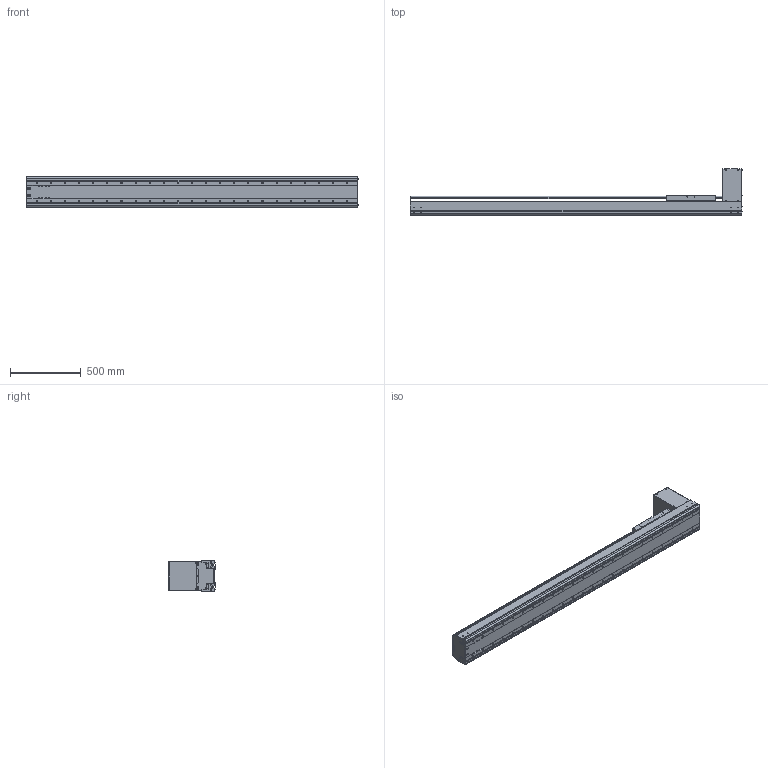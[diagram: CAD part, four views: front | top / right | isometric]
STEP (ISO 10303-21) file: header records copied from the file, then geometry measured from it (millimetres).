
FILE_DESCRIPTION((''),'2;1');
FILE_NAME('BE60J-BT-L19N-H5_IGS_PRT','2017-06-18T',(' '),(''),'PRO/ENGINEER BY PARAMETRIC TECHNOLOGY CORPORATION, 2015030','PRO/ENGINEER BY PARAMETRIC TECHNOLOGY CORPORATION, 2015030','');
FILE_SCHEMA(('CONFIG_CONTROL_DESIGN'));
Products named in the file (1): BE60J-BT-L19N-H5_IGS_PRT
Bounding box: 2354.4 x 327.5 x 214 mm (x, y, z)
Volume: 15554699.3 mm3; surface area: 5168882.7 mm2
Topology: 5 solids, 310 shells, 2353 faces, 6630 edges, 4446 vertices
Faces by surface type: cylinder 1154, plane 863, cone 240, torus 48, sphere 48
Entity records: 78671 total; most frequent: CARTESIAN_POINT 18093, DIRECTION 12656, ORIENTED_EDGE 11868, EDGE_CURVE 6460, AXIS2_PLACEMENT_3D 4798, VERTEX_POINT 4438, VECTOR 3060, LINE 3060
